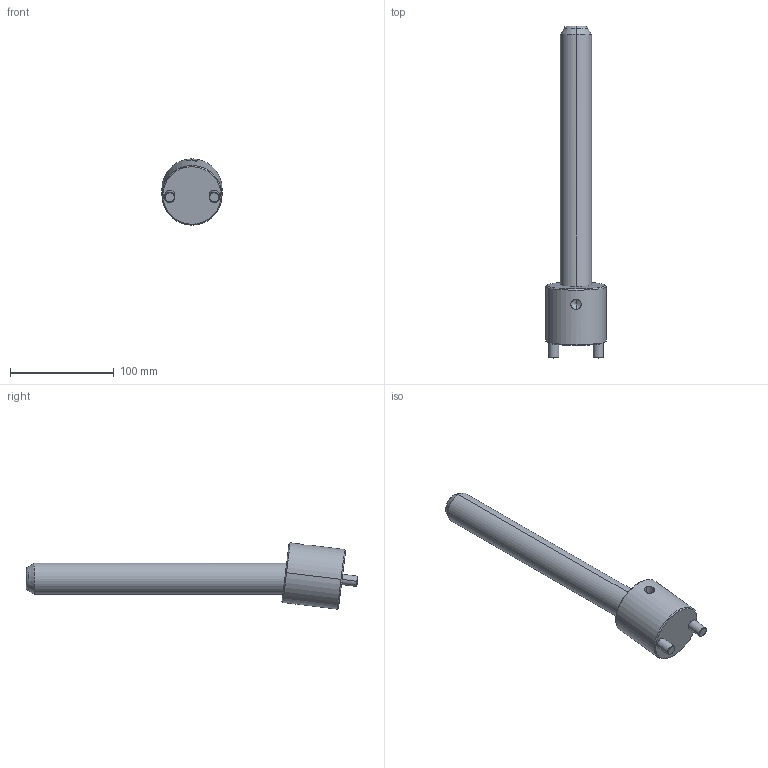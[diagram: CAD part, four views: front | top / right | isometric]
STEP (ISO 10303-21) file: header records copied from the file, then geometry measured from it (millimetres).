
FILE_DESCRIPTION(('CATIA V5 STEP Exchange'),'2;1');
FILE_NAME('C:\Users\Raffaele\Desktop\3D BOLEX\3D FILES CF BOLEX\19-INCLINED ASSEMBLY REF_CI\CI0730250.stp','2019-06-24T07:35:52+00:00',('none'),('none'),'CATIA Version 5 Release 20 GA (IN-10)','CATIA V5 STEP AP203','none');
FILE_SCHEMA(('CONFIG_CONTROL_DESIGN'));
Length unit declared in the file: millimetre
Products named in the file (1): CI0730250
Assembly tree (2 placements, depth 2):
  CI0730250
    #58
    #593
Bounding box: 58 x 320.76 x 64.03 mm (x, y, z)
Volume: 320264.5 mm3; surface area: 49719.5 mm2
Topology: 2 solids, 2 shells, 39 faces, 82 edges, 47 vertices
Faces by surface type: cone 14, cylinder 14, plane 7, torus 4
Entity records: 1548 total; most frequent: CARTESIAN_POINT 687, ORIENTED_EDGE 160, DIRECTION 146, EDGE_CURVE 80, AXIS2_PLACEMENT_3D 73, VERTEX_POINT 47, EDGE_LOOP 43, ADVANCED_FACE 39
